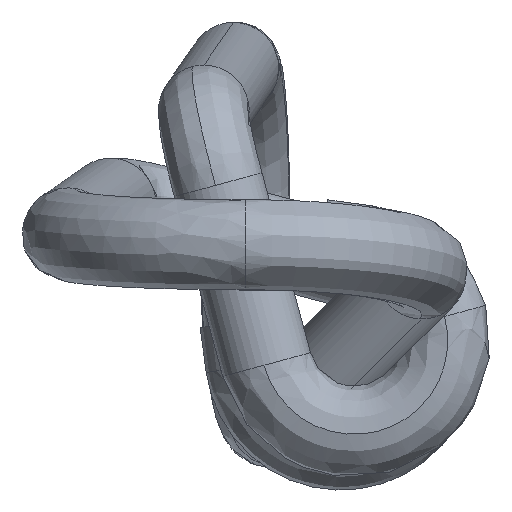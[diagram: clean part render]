
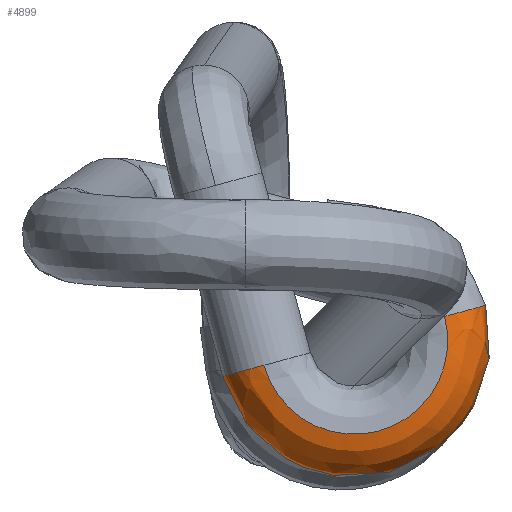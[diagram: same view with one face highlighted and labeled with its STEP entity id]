
A CAD part, left-side view. The second image highlights one B-rep face of the part: STEP entity #4899.
In plain terms, the highlighted free-form (B-spline) face has degree [3, 3] with [7, 4] control points.
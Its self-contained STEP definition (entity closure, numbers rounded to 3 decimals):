
#16764 = ORIENTED_EDGE ( 'NONE', *, *, #19543, .F. ) ;
#19181 = VERTEX_POINT ( 'NONE', #21510 ) ;
#19394 = VERTEX_POINT ( 'NONE', #21831 ) ;
#19543 = EDGE_CURVE ( 'NONE', #19394, #19181, #22128, .T. ) ;
#20104 = CARTESIAN_POINT ( 'NONE',  ( -0.6, 0.294, -1.739 ) ) ;
#4445 = EDGE_LOOP ( 'NONE', ( #16764, #9959, #16212, #10090, #9012 ) ) ;
#4899 = ADVANCED_FACE ( 'NONE', ( #7473 ), #7474, .F. ) ;
#4933 = VERTEX_POINT ( 'NONE', #7542 ) ;
#21379 = CIRCLE ( 'NONE', #21380, 0.6 ) ;
#21380 = AXIS2_PLACEMENT_3D ( 'NONE', #21381, #21382, #21383 ) ;
#21381 = CARTESIAN_POINT ( 'NONE',  ( -0.6, -0.285, -1.583 ) ) ;
#21382 = DIRECTION ( 'NONE',  ( 0., -0.261, -0.965 ) ) ;
#21383 = DIRECTION ( 'NONE',  ( 0.998, -0.058, 0.016 ) ) ;
#21481 =( BOUNDED_CURVE ( )  B_SPLINE_CURVE ( 3, ( #21482, #21483, #21484, #21485, #21486, #21487, #21488 ),
 .UNSPECIFIED., .F., .T. ) 
 B_SPLINE_CURVE_WITH_KNOTS ( ( 4, 3, 4 ),
 ( 0.021, 0.5, 0.979 ),
 .UNSPECIFIED. ) 
 CURVE ( )  GEOMETRIC_REPRESENTATION_ITEM ( )  RATIONAL_B_SPLINE_CURVE ( ( 0.974, 0.79, 0.799, 1., 0.799, 0.79, 0.974 ) ) 
 REPRESENTATION_ITEM ( '' )  );
#21482 = CARTESIAN_POINT ( 'NONE',  ( -0.001, -2.567, -0.967 ) ) ;
#21483 = CARTESIAN_POINT ( 'NONE',  ( 0.02, -2.908, -0.875 ) ) ;
#21484 = CARTESIAN_POINT ( 'NONE',  ( -0.215, -3.16, -0.807 ) ) ;
#21485 = CARTESIAN_POINT ( 'NONE',  ( -0.564, -3.18, -0.801 ) ) ;
#21486 = CARTESIAN_POINT ( 'NONE',  ( -0.913, -3.2, -0.796 ) ) ;
#21487 = CARTESIAN_POINT ( 'NONE',  ( -1.178, -2.977, -0.856 ) ) ;
#21488 = CARTESIAN_POINT ( 'NONE',  ( -1.199, -2.637, -0.948 ) ) ;
#21510 = CARTESIAN_POINT ( 'NONE',  ( -0.001, -0.32, -1.573 ) ) ;
#21831 = CARTESIAN_POINT ( 'NONE',  ( -0.001, -2.567, -0.967 ) ) ;
#22128 = CIRCLE ( 'NONE', #22129, 1.164 ) ;
#22129 = AXIS2_PLACEMENT_3D ( 'NONE', #22130, #22131, #22132 ) ;
#22130 = CARTESIAN_POINT ( 'NONE',  ( -0.001, -1.443, -1.27 ) ) ;
#22131 = DIRECTION ( 'NONE',  ( 1., 0., 0. ) ) ;
#22132 = DIRECTION ( 'NONE',  ( 0., -0.965, 0.261 ) ) ;
#7473 = FACE_OUTER_BOUND ( 'NONE', #4445, .T. ) ;
#7474 =( BOUNDED_SURFACE ( )  B_SPLINE_SURFACE ( 3, 3, ( 
 ( #7475, #7478, #7479, #7480 ),
 ( #7481, #7482, #7483, #7484 ),
 ( #7485, #7486, #7487, #7488 ),
 ( #7489, #7490, #7491, #7492 ),
 ( #7493, #7498, #7499, #7500 ),
 ( #7501, #7502, #7503, #7504 ),
 ( #7505, #7506, #7507, #7508 ) ),
 .UNSPECIFIED., .F., .F., .T. ) 
 B_SPLINE_SURFACE_WITH_KNOTS ( ( 4, 3, 4 ),
 ( 4, 4 ),
 ( 0.021, 0.5, 0.979 ),
 ( 0., 1. ),
 .UNSPECIFIED. ) 
 GEOMETRIC_REPRESENTATION_ITEM ( )  RATIONAL_B_SPLINE_SURFACE ( (
 ( 0.974, 0.325, 0.325, 0.974),
 ( 0.79, 0.263, 0.263, 0.79),
 ( 0.799, 0.266, 0.266, 0.799),
 ( 1., 0.333, 0.333, 1.),
 ( 0.799, 0.266, 0.266, 0.799),
 ( 0.79, 0.263, 0.263, 0.79),
 ( 0.974, 0.325, 0.325, 0.974) ) ) 
 REPRESENTATION_ITEM ( '' )  SURFACE ( )  );
#7475 = CARTESIAN_POINT ( 'NONE',  ( -0.001, -0.32, -1.573 ) ) ;
#7478 = CARTESIAN_POINT ( 'NONE',  ( -0.001, -0.926, -3.821 ) ) ;
#7479 = CARTESIAN_POINT ( 'NONE',  ( -0.001, -3.174, -3.214 ) ) ;
#7480 = CARTESIAN_POINT ( 'NONE',  ( -0.001, -2.567, -0.967 ) ) ;
#7481 = CARTESIAN_POINT ( 'NONE',  ( 0.02, 0.021, -1.665 ) ) ;
#7482 = CARTESIAN_POINT ( 'NONE',  ( 0.02, -0.769, -4.594 ) ) ;
#7483 = CARTESIAN_POINT ( 'NONE',  ( 0.02, -3.698, -3.804 ) ) ;
#7484 = CARTESIAN_POINT ( 'NONE',  ( 0.02, -2.908, -0.875 ) ) ;
#7485 = CARTESIAN_POINT ( 'NONE',  ( -0.215, 0.273, -1.733 ) ) ;
#7486 = CARTESIAN_POINT ( 'NONE',  ( -0.215, -0.653, -5.166 ) ) ;
#7487 = CARTESIAN_POINT ( 'NONE',  ( -0.215, -4.086, -4.24 ) ) ;
#7488 = CARTESIAN_POINT ( 'NONE',  ( -0.215, -3.16, -0.807 ) ) ;
#7489 = CARTESIAN_POINT ( 'NONE',  ( -0.564, 0.293, -1.739 ) ) ;
#7490 = CARTESIAN_POINT ( 'NONE',  ( -0.564, -0.644, -5.212 ) ) ;
#7491 = CARTESIAN_POINT ( 'NONE',  ( -0.564, -4.118, -4.275 ) ) ;
#7492 = CARTESIAN_POINT ( 'NONE',  ( -0.564, -3.18, -0.801 ) ) ;
#7493 = CARTESIAN_POINT ( 'NONE',  ( -0.913, 0.314, -1.744 ) ) ;
#7498 = CARTESIAN_POINT ( 'NONE',  ( -0.913, -0.635, -5.259 ) ) ;
#7499 = CARTESIAN_POINT ( 'NONE',  ( -0.913, -4.149, -4.31 ) ) ;
#7500 = CARTESIAN_POINT ( 'NONE',  ( -0.913, -3.2, -0.796 ) ) ;
#7501 = CARTESIAN_POINT ( 'NONE',  ( -1.178, 0.091, -1.684 ) ) ;
#7502 = CARTESIAN_POINT ( 'NONE',  ( -1.178, -0.737, -4.752 ) ) ;
#7503 = CARTESIAN_POINT ( 'NONE',  ( -1.178, -3.805, -3.924 ) ) ;
#7504 = CARTESIAN_POINT ( 'NONE',  ( -1.178, -2.977, -0.856 ) ) ;
#7505 = CARTESIAN_POINT ( 'NONE',  ( -1.199, -0.25, -1.592 ) ) ;
#7506 = CARTESIAN_POINT ( 'NONE',  ( -1.199, -0.894, -3.979 ) ) ;
#7507 = CARTESIAN_POINT ( 'NONE',  ( -1.199, -3.281, -3.335 ) ) ;
#7508 = CARTESIAN_POINT ( 'NONE',  ( -1.199, -2.637, -0.948 ) ) ;
#7542 = CARTESIAN_POINT ( 'NONE',  ( -1.199, -2.637, -0.948 ) ) ;
#8650 = EDGE_CURVE ( 'NONE', #9533, #19181, #16349, .T. ) ;
#9012 = ORIENTED_EDGE ( 'NONE', *, *, #8650, .T. ) ;
#9533 = VERTEX_POINT ( 'NONE', #20104 ) ;
#9646 = CARTESIAN_POINT ( 'NONE',  ( -1.199, -0.25, -1.592 ) ) ;
#9761 = EDGE_CURVE ( 'NONE', #15633, #9533, #21379, .T. ) ;
#9798 = EDGE_CURVE ( 'NONE', #19394, #4933, #21481, .T. ) ;
#9959 = ORIENTED_EDGE ( 'NONE', *, *, #9798, .T. ) ;
#10090 = ORIENTED_EDGE ( 'NONE', *, *, #9761, .T. ) ;
#10237 = CIRCLE ( 'NONE', #10238, 1.236 ) ;
#10238 = AXIS2_PLACEMENT_3D ( 'NONE', #10239, #10240, #10244 ) ;
#10239 = CARTESIAN_POINT ( 'NONE',  ( -1.199, -1.443, -1.27 ) ) ;
#10240 = DIRECTION ( 'NONE',  ( -1., 0., 0. ) ) ;
#10244 = DIRECTION ( 'NONE',  ( 0., -0.965, 0.261 ) ) ;
#15633 = VERTEX_POINT ( 'NONE', #9646 ) ;
#15851 = EDGE_CURVE ( 'NONE', #15633, #4933, #10237, .T. ) ;
#16212 = ORIENTED_EDGE ( 'NONE', *, *, #15851, .F. ) ;
#16349 = CIRCLE ( 'NONE', #16350, 0.6 ) ;
#16350 = AXIS2_PLACEMENT_3D ( 'NONE', #16351, #16352, #16353 ) ;
#16351 = CARTESIAN_POINT ( 'NONE',  ( -0.6, -0.285, -1.583 ) ) ;
#16352 = DIRECTION ( 'NONE',  ( 0., -0.261, -0.965 ) ) ;
#16353 = DIRECTION ( 'NONE',  ( 0.998, -0.058, 0.016 ) ) ;
